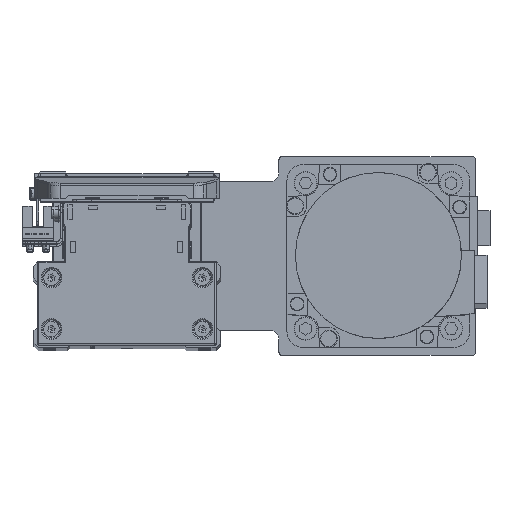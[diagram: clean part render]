
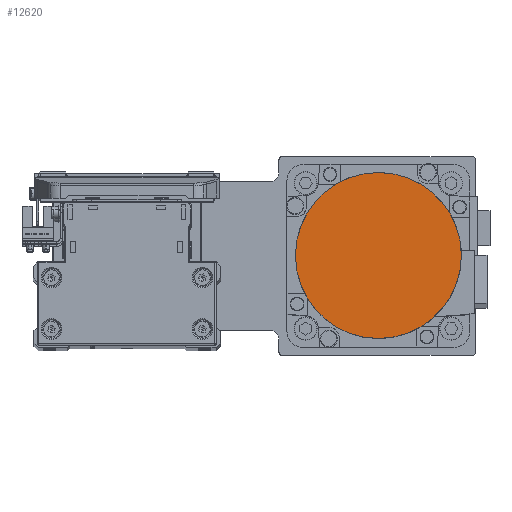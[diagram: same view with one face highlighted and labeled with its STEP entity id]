
A CAD part, top view. The second image highlights one B-rep face of the part: STEP entity #12620.
In plain terms, the highlighted planar face has unit normal (0, 0, 1) as drawn and (0, 0, -1) by its records, which use the part's own axes.
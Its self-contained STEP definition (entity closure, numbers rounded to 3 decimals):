
#413 = AXIS2_PLACEMENT_3D ( 'NONE', #37762, #10139, #22428 ) ;
#1836 = CARTESIAN_POINT ( 'NONE',  ( 0., 0., -122.2 ) ) ;
#4142 = VERTEX_POINT ( 'NONE', #5245 ) ;
#5245 = CARTESIAN_POINT ( 'NONE',  ( 0., -36.3, -122.2 ) ) ;
#6262 = AXIS2_PLACEMENT_3D ( 'NONE', #1836, #14097, #26403 ) ;
#7699 = EDGE_LOOP ( 'NONE', ( #33463, #14549 ) ) ;
#8595 = CIRCLE ( 'NONE', #31123, 36.3 ) ;
#10139 = DIRECTION ( 'NONE',  ( 0., 0., 1. ) ) ;
#10913 = DIRECTION ( 'NONE',  ( 0., 0., 1. ) ) ;
#12620 = ADVANCED_FACE ( 'NONE', ( #13153 ), #25469, .F. ) ;
#13153 = FACE_OUTER_BOUND ( 'NONE', #7699, .T. ) ;
#14097 = DIRECTION ( 'NONE',  ( 0., 0., 1. ) ) ;
#14549 = ORIENTED_EDGE ( 'NONE', *, *, #33213, .F. ) ;
#22428 = DIRECTION ( 'NONE',  ( 1., 0., 0. ) ) ;
#23202 = DIRECTION ( 'NONE',  ( 0., -1., 0. ) ) ;
#23614 = EDGE_CURVE ( 'NONE', #27056, #4142, #23638, .T. ) ;
#23638 = CIRCLE ( 'NONE', #6262, 36.3 ) ;
#25469 = PLANE ( 'NONE',  #413 ) ;
#26403 = DIRECTION ( 'NONE',  ( 0., 1., 0. ) ) ;
#27056 = VERTEX_POINT ( 'NONE', #35922 ) ;
#31123 = AXIS2_PLACEMENT_3D ( 'NONE', #38544, #10913, #23202 ) ;
#33213 = EDGE_CURVE ( 'NONE', #4142, #27056, #8595, .T. ) ;
#33463 = ORIENTED_EDGE ( 'NONE', *, *, #23614, .F. ) ;
#35922 = CARTESIAN_POINT ( 'NONE',  ( 0., 36.3, -122.2 ) ) ;
#37762 = CARTESIAN_POINT ( 'NONE',  ( 0., 0., -122.2 ) ) ;
#38544 = CARTESIAN_POINT ( 'NONE',  ( 0., 0., -122.2 ) ) ;
